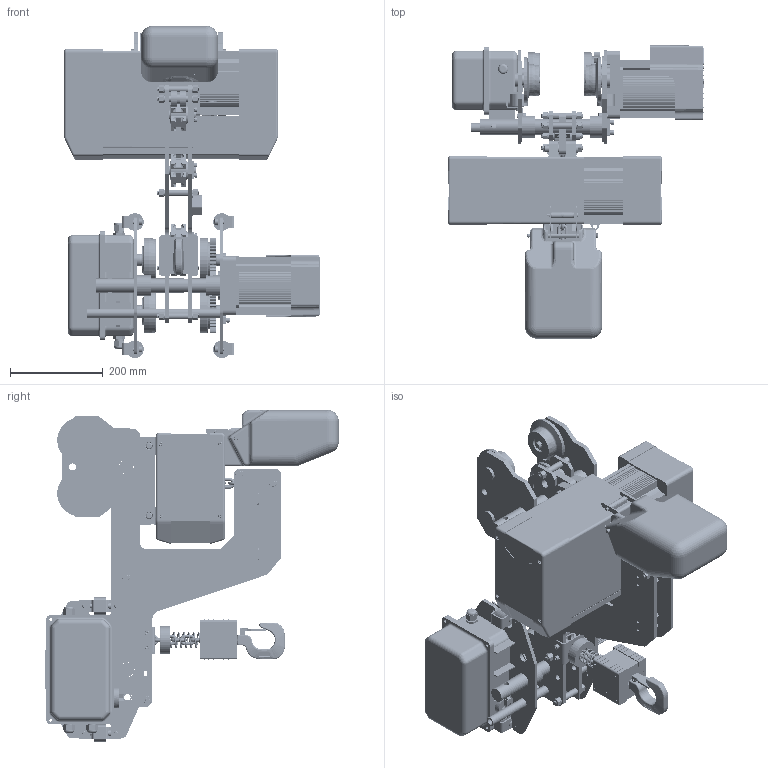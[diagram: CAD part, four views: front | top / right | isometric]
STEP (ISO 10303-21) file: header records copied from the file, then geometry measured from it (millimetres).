
FILE_DESCRIPTION(/* description */ ('CAx-IF Rec.Pracs.---Representation and Presentation of Product Manufacturing Information (PMI)---4.0---2014-10-13','CAx-IF Rec.Pracs.---3D Tessellated Geometry---0.4---2014-09-14','2;1'),/* implementation_level */ '2;1');
FILE_NAME(/* name */ 'YJ 01-01 超低吊',/* time_stamp */ '2026-06-03T10:42:25+08:00',/* author */ (''),/* organization */ (''),/* preprocessor_version */ 'ST-DEVELOPER v16.7',/* originating_system */ $,/* authorisation */ $);
FILE_SCHEMA (('AP242_MANAGED_MODEL_BASED_3D_ENGINEERING_MIM_LF { 1 0 10303 442 20130219 1 4 }'));
Products named in the file (1): YJ 01-01 超低吊
Bounding box: 552.98 x 634.52 x 717.42 mm (x, y, z)
Volume: 20864886.5 mm3; surface area: 3173587.9 mm2
Topology: 50 solids, 68 shells, 6958 faces, 17280 edges, 10735 vertices
Faces by surface type: plane 2865, cylinder 1984, bspline 1096, cone 494, torus 445, sphere 74
Full cylindrical faces by diameter (mm): 2.14 x1, 2.5 x6, 2.7 x2, 3.2 x4, 3.38 x1, 3.4 x8, 3.5 x1, 4 x10, 4.2 x4, 4.5 x2, 4.826 x4, 5 x20, 5.326 x2, 5.7 x4, 5.795 x16, 6 x6, 6.2 x2, 6.3 x4, 6.4 x4, 6.5 x12, 6.6 x8, 6.8 x8, 7 x8, 7.46 x1, 7.76 x12, 8 x2, 8.5 x8, 8.6 x2, 8.9 x8, 9 x2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
Entity records: 257228 total; most frequent: CARTESIAN_POINT 86322, ORIENTED_EDGE 32370, DIRECTION 30081, EDGE_CURVE 16185, AXIS2_PLACEMENT_3D 11228, VERTEX_POINT 10471, FACE_BOUND 8504, EDGE_LOOP 8472
